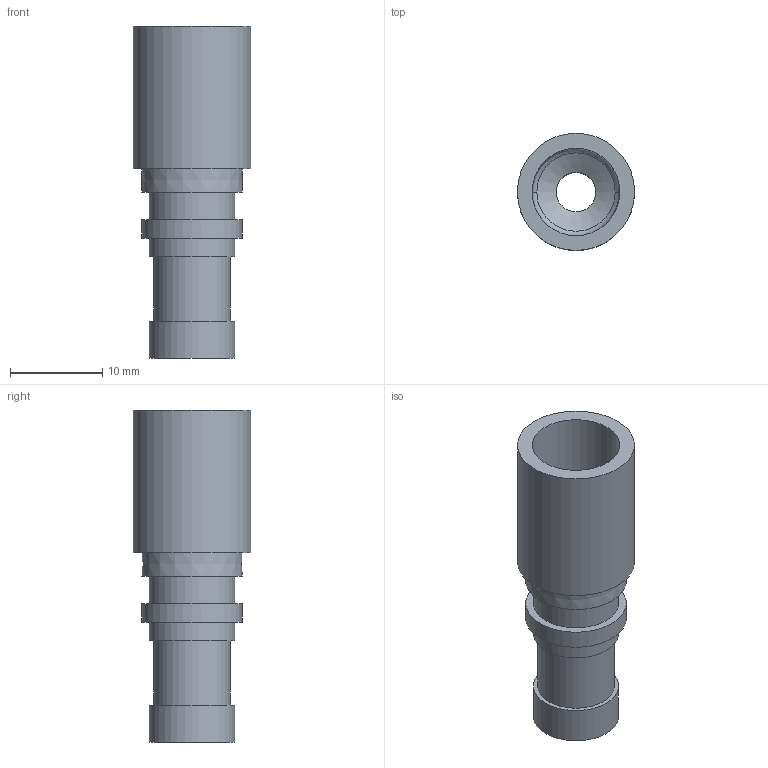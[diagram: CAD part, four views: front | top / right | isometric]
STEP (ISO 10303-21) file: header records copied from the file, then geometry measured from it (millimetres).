
FILE_DESCRIPTION (( 'STEP AP203' ), '1' );
FILE_NAME ('70-6.3R12.7-PH.STEP', '2013-09-19T10:53:17', ( '' ), ( '' ), 'SwSTEP 2.0', 'SolidWorks 2012', '' );
FILE_SCHEMA (( 'CONFIG_CONTROL_DESIGN' ));
Length unit declared in the file: millimetre
Products named in the file (1): 70-6.3R12.7-PH
Bounding box: 12.7 x 12.7 x 36 mm (x, y, z)
Volume: 2244.2 mm3; surface area: 2164.1 mm2
Topology: 1 solids, 1 shells, 22 faces, 37 edges, 24 vertices
Faces by surface type: cylinder 9, plane 9, cone 2, bspline 2
Full cylindrical faces by diameter (mm): 4.3 x1, 6.3 x1, 8.3 x1, 9.25 x3, 9.5 x1, 10.9 x1, 12.7 x1
Entity records: 567 total; most frequent: CARTESIAN_POINT 107, DIRECTION 88, ORIENTED_EDGE 50, AXIS2_PLACEMENT_3D 44, EDGE_LOOP 42, FACE_OUTER_BOUND 31, EDGE_CURVE 25, VERTEX_POINT 23
